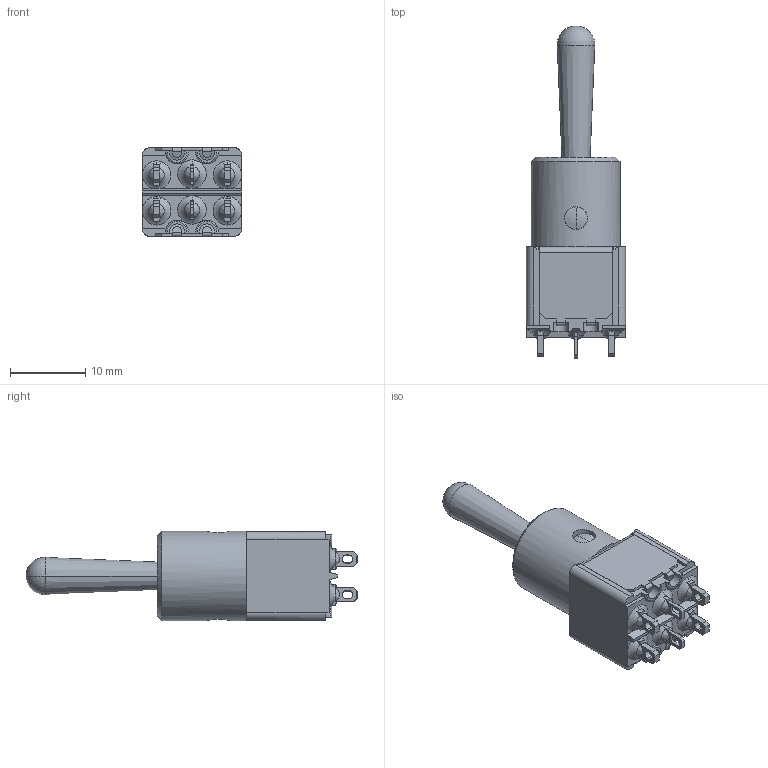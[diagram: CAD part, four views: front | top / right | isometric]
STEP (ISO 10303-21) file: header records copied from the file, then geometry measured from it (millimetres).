
FILE_DESCRIPTION((''),'2;1');
FILE_NAME('5647MAKBX642','2010-08-25T',('francis'),(''),'PRO/ENGINEER BY PARAMETRIC TECHNOLOGY CORPORATION, 2009440','PRO/ENGINEER BY PARAMETRIC TECHNOLOGY CORPORATION, 2009440','');
FILE_SCHEMA(('CONFIG_CONTROL_DESIGN'));
Length unit declared in the file: millimetre
Products named in the file (1): 5647MAKBX642
Bounding box: 13.2 x 44.2 x 11.9 mm (x, y, z)
Volume: 2221.3 mm3; surface area: 3539.7 mm2
Topology: 2 solids, 2 shells, 685 faces, 1888 edges, 1177 vertices
Faces by surface type: plane 472, cylinder 134, sphere 24, torus 22, bspline 20, cone 13
Entity records: 23255 total; most frequent: CARTESIAN_POINT 5990, ORIENTED_EDGE 3764, DIRECTION 3379, EDGE_CURVE 1882, VECTOR 1335, LINE 1335, VERTEX_POINT 1177, AXIS2_PLACEMENT_3D 1022
